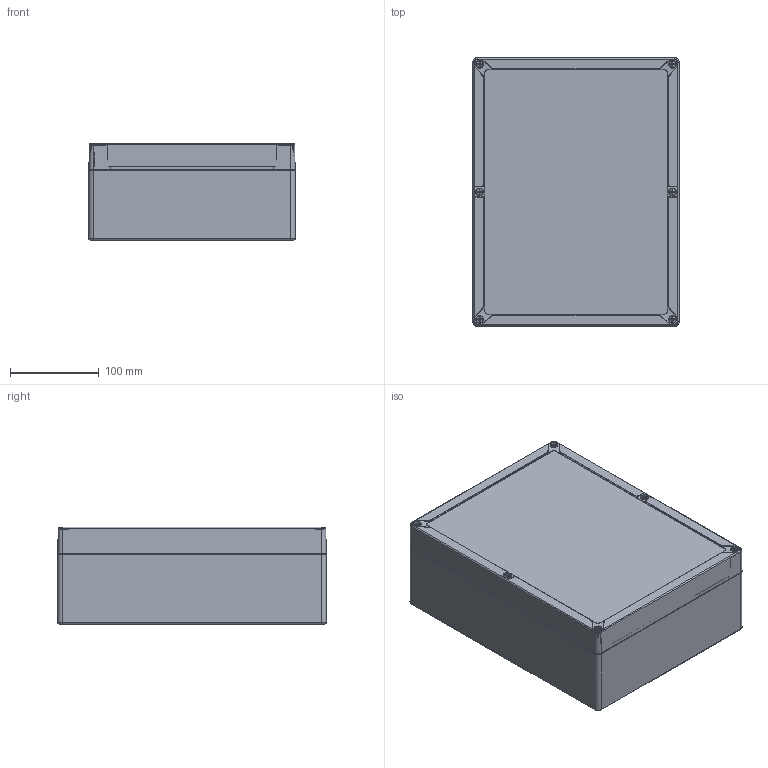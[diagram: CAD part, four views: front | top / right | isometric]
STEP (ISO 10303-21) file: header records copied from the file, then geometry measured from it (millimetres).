
FILE_DESCRIPTION (( 'STEP AP214' ), '1' );
FILE_NAME ('SG-16-02.STEP', '2026-02-27T17:34:03', ( '' ), ( '' ), 'SwSTEP 2.0', 'SolidWorks 2025', '' );
FILE_SCHEMA (( 'AUTOMOTIVE_DESIGN' ));
Length unit declared in the file: inch
Products named in the file (7): SG-16B_SG-16B-02; SG-KIT-03; SCREWS-019_SCREWS-19; SG-16C_SG-16C-02; SG-16-02; SG-97S; SCREWS-022_SCREWS-022
Assembly tree (15 placements, depth 3):
  SG-16-02
    SG-16B_SG-16B-02
    SG-16C_SG-16C-02
    SG-KIT-03
      SCREWS-019_SCREWS-19  x6
      SCREWS-022_SCREWS-022  x4
      SG-97S  x2
Bounding box: 232 x 302 x 110 mm (x, y, z)
Volume: 880126.9 mm3; surface area: 590294.3 mm2
Topology: 11 solids, 15 shells, 3565 faces, 8830 edges, 5306 vertices
Faces by surface type: cylinder 1095, plane 1071, bspline 690, torus 345, cone 248, sphere 116
Entity records: 85551 total; most frequent: CARTESIAN_POINT 33852, ORIENTED_EDGE 11154, DIRECTION 10391, EDGE_CURVE 5577, AXIS2_PLACEMENT_3D 3838, VERTEX_POINT 3506, VECTOR 2715, LINE 2715
